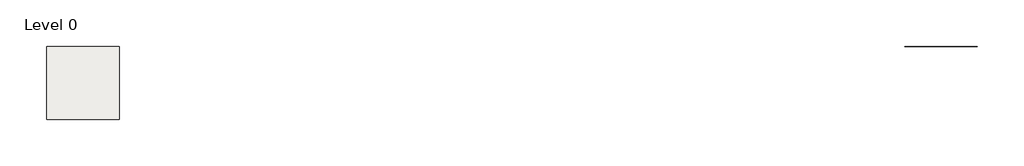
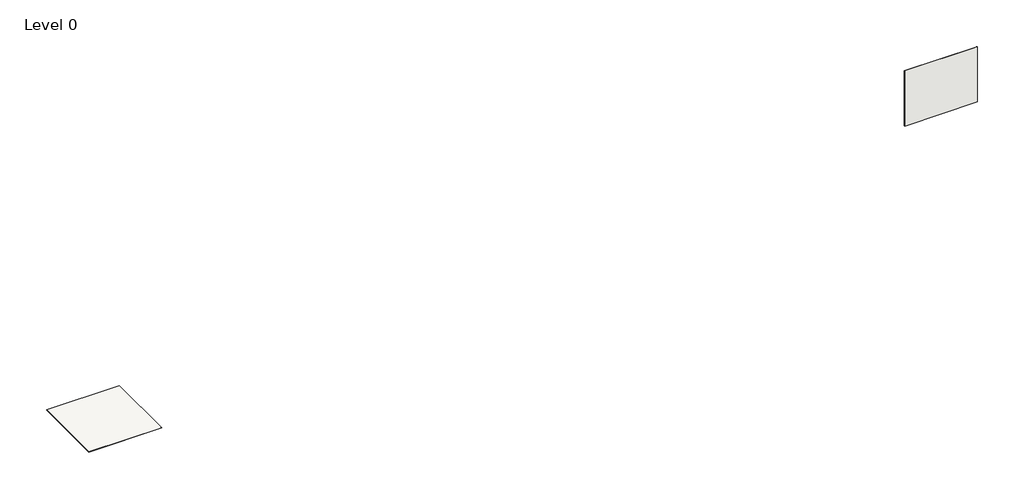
# One storey: 2 coverings.
"""IFC4 building model written with IfcOpenShell, lengths in millimetres."""

from ifc_helpers import new_model, si_unit, frame, origin, origin_with_axes, place, context, project, spatial, polyline, outline, extrude, element, save

model = new_model("IFC4")

# Units and contexts
model_context = context("Model", 3, world=origin())
ifc_project = project(units=[si_unit("LENGTHUNIT", "METRE", prefix="MILLI")], contexts=[model_context])

# Site, building, storey
site = spatial("IfcSite", under=ifc_project)
building = spatial("IfcBuilding", under=site)
storey = spatial("IfcBuildingStorey", under=building, Name="Level 0", Elevation=0.0)

# Coverings
placement = place(None, origin())
element("IfcCovering", 1, ObjectType="NBS_DeltaMembranes_HighDensityPolyethyleneStuddedSheets_Delta-SystemMS500", at=placement, inside=storey, context=model_context, shape_type="SweptSolid", body=[
    extrude(outline(polyline([(2258.592582, 100.012889), (2258.592582, 2600.012889), (4758.592582, 2600.012889), (4758.592582, 100.012889), (2258.592582, 100.012889)])), frame((0.0, 0.0, -8.0), z_axis=(0.0, 0.0, 1.0), x_axis=(1.0, 0.0, 0.0)), (0.0, 0.0, 1.0), 8.0),
])
element("IfcCovering", 2, ObjectType="NBS_DeltaMembranes_HighDensityPolyethyleneStuddedSheets_Delta-SystemMS500", at=placement, inside=storey, context=model_context, shape_type="SweptSolid", body=[
    extrude(outline(polyline([(31658.9111454, 2600.012889), (34158.9111454, 2600.012889), (34158.9111454, 2592.012889), (31658.9111454, 2592.012889), (31658.9111454, 2600.012889)])), origin_with_axes(), (0.0, 0.0, 1.0), 2000.0),
])

save(model, "model.ifc")
